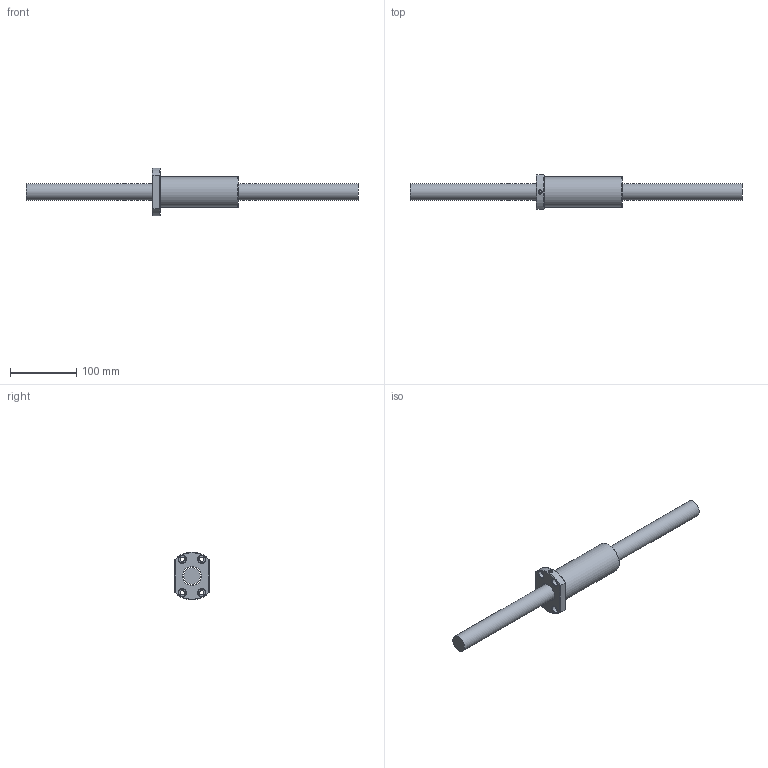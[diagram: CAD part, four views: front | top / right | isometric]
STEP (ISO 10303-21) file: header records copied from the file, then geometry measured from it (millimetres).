
FILE_DESCRIPTION (( 'STEP AP203' ), '1' );
FILE_NAME ('OFI02510D-4.step', '2024-05-17T03:23:14', ( '' ), ( '' ), 'SwSTEP 2.0', 'SolidWorks 2022', '' );
FILE_SCHEMA (( 'CONFIG_CONTROL_DESIGN' ));
Length unit declared in the file: millimetre
Products named in the file (1): OFI02510D-4
Bounding box: 500 x 52 x 72 mm (x, y, z)
Volume: 397143.9 mm3; surface area: 77997.5 mm2
Topology: 2 solids, 2 shells, 56 faces, 143 edges, 92 vertices
Faces by surface type: cylinder 21, plane 16, cone 9, bspline 5, torus 5
Full cylindrical faces by diameter (mm): 4 x1, 5 x6, 6.5 x4, 11 x4, 25 x1, 28.2 x1, 46 x1
Entity records: 3227 total; most frequent: CARTESIAN_POINT 2141, DIRECTION 198, ORIENTED_EDGE 182, AXIS2_PLACEMENT_3D 91, EDGE_CURVE 91, EDGE_LOOP 86, VERTEX_POINT 71, FACE_OUTER_BOUND 64
